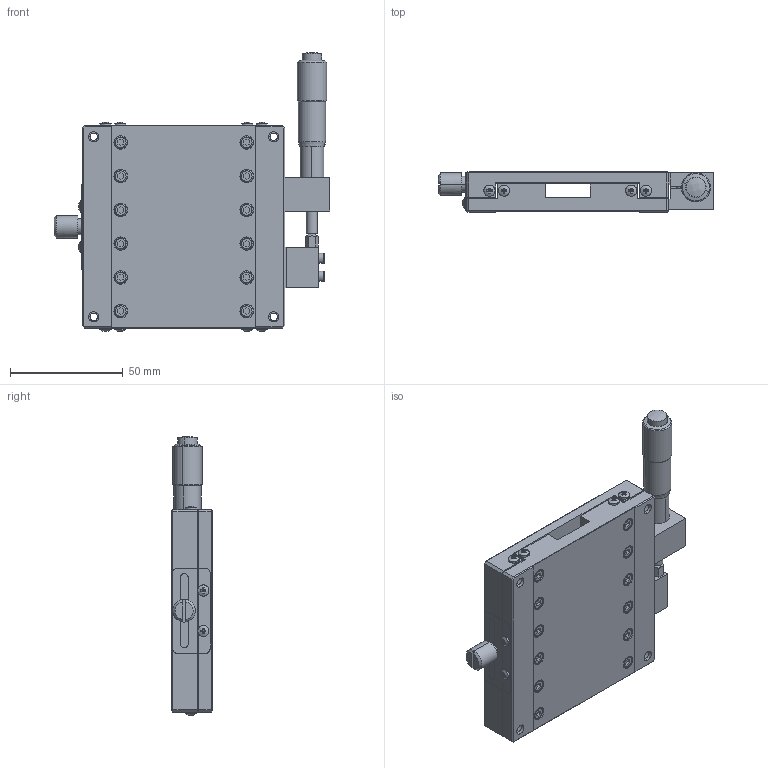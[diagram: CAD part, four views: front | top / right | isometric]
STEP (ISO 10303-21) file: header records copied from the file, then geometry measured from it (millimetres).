
FILE_DESCRIPTION (( 'STEP AP203' ), '1' );
FILE_NAME ('LX90-R.STEP', '2013-12-24T10:51:36', ( 'pengyu' ), ( '' ), 'SwSTEP 2.0', 'SolidWorks 2011', '' );
FILE_SCHEMA (( 'CONFIG_CONTROL_DESIGN' ));
Length unit declared in the file: millimetre
Products named in the file (4): LX90-R; MT25-1-1; L90R-2; L90R-1
Assembly tree (3 placements, depth 2):
  LX90-R
    L90R-1
    MT25-1-1
    L90R-2
Bounding box: 122.6 x 18 x 123.81 mm (x, y, z)
Volume: 138228.8 mm3; surface area: 56639.2 mm2
Topology: 3 solids, 7 shells, 920 faces, 2203 edges, 1392 vertices
Faces by surface type: plane 528, cylinder 221, cone 97, bspline 74
Entity records: 28093 total; most frequent: CARTESIAN_POINT 6536, DIRECTION 4369, ORIENTED_EDGE 4358, EDGE_CURVE 2179, AXIS2_PLACEMENT_3D 1577, VERTEX_POINT 1392, VECTOR 1215, LINE 1215
